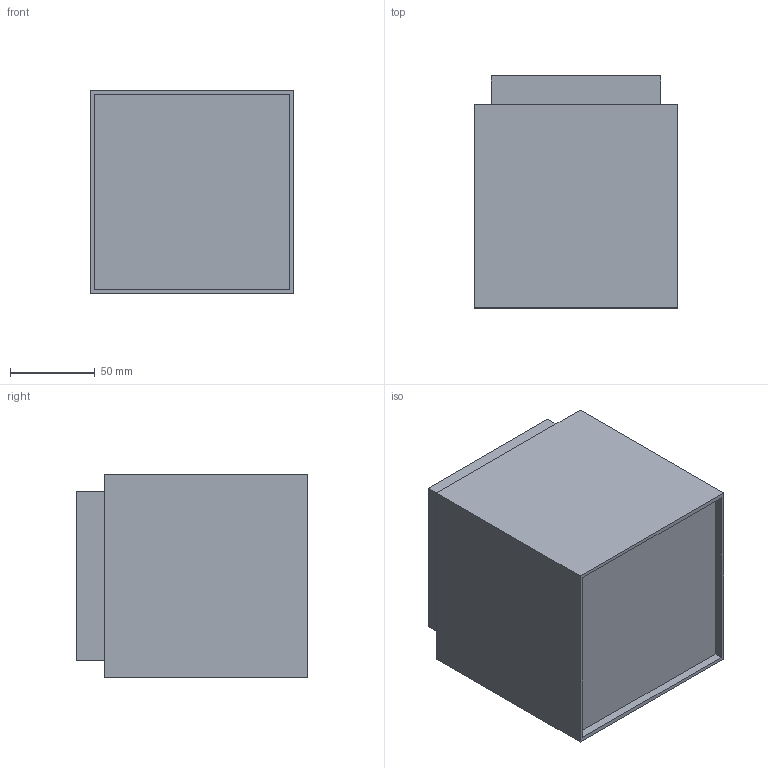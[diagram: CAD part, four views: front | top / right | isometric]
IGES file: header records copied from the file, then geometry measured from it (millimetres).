
Start section: SolidWorks IGES file using analytic representation for surfaces
Global section: file name: C:\Users\tungari.NEMOLIGHTING\Desktop\3D\CEILING\3D_CUBO_CEILINGGG\DEF\3D_CUBO_CEILING.IGS; native system: SolidWorks 2016; preprocessor: SolidWorks 2016; author: tungari; date: 180316.110506; units: millimetre
Bounding box: 120 x 136.86 x 120 mm (x, y, z)
Surface area: 157629.5 mm2 (no closed solid volume)
Topology: 0 solids, 0 shells, 22 faces, 96 edges, 96 vertices
Faces by surface type: bspline 22
